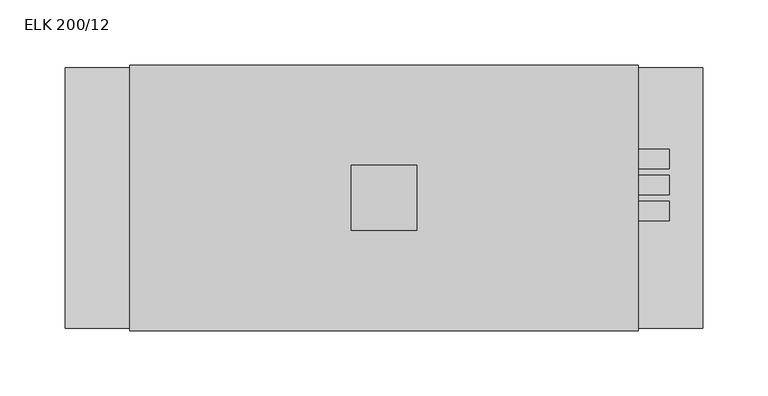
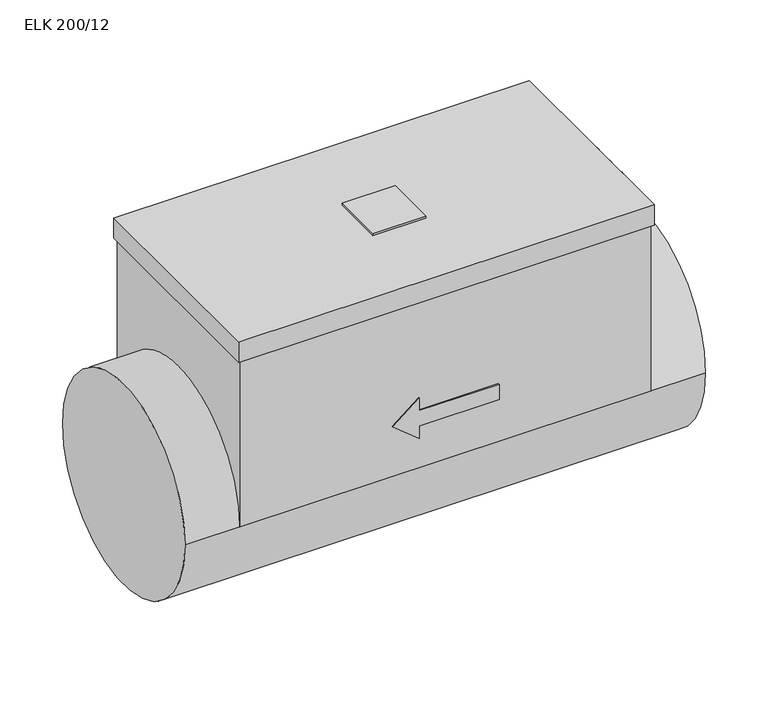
"""IFC4 building model written with IfcOpenShell, lengths in millimetres: proxy geometry, KORF_Нагреватель_Электрический_Круглый_ELK : ELK 200/12."""

from ifc_helpers import new_model, si_unit, point, frame, frame_2d, origin, place, context, project, spatial, polyline, circle_curve, trimmed, segment, composite_curve, outline, extrude, source, transform, mapped, element, save
from ifc_brep_helpers import plane_surface, cylinder_surface, advanced_brep


def elk_200_12_531226ba(model_context):
    return source(origin(), model_context, "Body", "SolidModel", [
        extrude(outline(polyline([(270.0, 25.0), (270.0, -25.0), (220.0, -25.0), (220.0, 25.0), (270.0, 25.0)])), frame((0.0, 0.0, 186.0), z_axis=(0.0, 0.0, 1.0), x_axis=(1.0, 0.0, 0.0)), (0.0, 0.0, 1.0), 2.0),
        extrude(outline(composite_curve([segment(trimmed(circle_curve(frame_2d((-10.0, 146.0)), 7.5), [point((-17.5, 146.0))], [point((-2.5, 146.0))], False, "CARTESIAN"), True, "CONTINUOUS"), segment(trimmed(circle_curve(frame_2d((-10.0, 146.0)), 7.5), [point((-2.5, 146.0))], [point((-17.5, 146.0))], False, "CARTESIAN"), True, "CONTINUOUS")], self_intersect=False)), frame((438.5, 0.0, 0.0), z_axis=(1.0, 0.0, 0.0), x_axis=(0.0, 1.0, 0.0)), (0.0, 0.0, 1.0), 25.75),
        extrude(outline(composite_curve([segment(trimmed(circle_curve(frame_2d((10.0, 146.0)), 7.5), [point((2.5, 146.0))], [point((17.5, 146.0))], False, "CARTESIAN"), True, "CONTINUOUS"), segment(trimmed(circle_curve(frame_2d((10.0, 146.0)), 7.5), [point((17.5, 146.0))], [point((2.5, 146.0))], False, "CARTESIAN"), True, "CONTINUOUS")], self_intersect=False)), frame((438.5, 0.0, 0.0), z_axis=(1.0, 0.0, 0.0), x_axis=(0.0, 1.0, 0.0)), (0.0, 0.0, 1.0), 25.75),
        extrude(outline(composite_curve([segment(trimmed(circle_curve(frame_2d((30.0, 146.0)), 7.5), [point((22.5, 146.0))], [point((37.5, 146.0))], False, "CARTESIAN"), True, "CONTINUOUS"), segment(trimmed(circle_curve(frame_2d((30.0, 146.0)), 7.5), [point((37.5, 146.0))], [point((22.5, 146.0))], False, "CARTESIAN"), True, "CONTINUOUS")], self_intersect=False)), frame((438.5, 0.0, 0.0), z_axis=(1.0, 0.0, 0.0), x_axis=(0.0, 1.0, 0.0)), (0.0, 0.0, 1.0), 25.75),
        advanced_brep(
        [(440.5, 102.0, 166.0), (440.5, -102.0, 166.0), (49.5, -102.0, 166.0), (49.5, 102.0, 166.0), (438.5, 100.0, 166.0), (51.5, 100.0, 166.0), (51.5, -100.0, 166.0), (438.5, -100.0, 166.0), (440.5, 102.0, 186.0), (49.5, 102.0, 186.0), (49.5, -102.0, 186.0), (440.5, -102.0, 186.0), (438.5, 100.0, 0.0), (51.5, 100.0, 0.0), (220.0, 100.0, 70.0), (195.0, 100.0, 50.0), (220.0, 100.0, 30.0), (220.0, 100.0, 42.5), (295.0, 100.0, 42.5), (295.0, 100.0, 57.5), (220.0, 100.0, 57.5), (51.5, -100.0, 0.0), (438.5, -100.0, 0.0), (195.0, -100.0, 50.0), (220.0, -100.0, 70.0), (220.0, -100.0, 57.5), (295.0, -100.0, 57.5), (295.0, -100.0, 42.5), (220.0, -100.0, 42.5), (220.0, -100.0, 30.0), (490.0, -100.0, 0.0), (490.0, 100.0, 0.0), (0.0, -100.0, 0.0), (0.0, 100.0, 0.0), (220.0, -101.0, 70.0), (195.0, -101.0, 50.0), (220.0, -101.0, 30.0), (220.0, -101.0, 42.5), (295.0, -101.0, 42.5), (295.0, -101.0, 57.5), (220.0, -101.0, 57.5), (220.0, 101.0, 70.0), (220.0, 101.0, 57.5), (295.0, 101.0, 57.5), (295.0, 101.0, 42.5), (220.0, 101.0, 42.5), (220.0, 101.0, 30.0), (195.0, 101.0, 50.0)],
        [
            (0, 1),
            (1, 2),
            (2, 3),
            (3, 0),
            (4, 5),
            (5, 6),
            (6, 7),
            (7, 4),
            (8, 9),
            (9, 10),
            (10, 11),
            (11, 8),
            (3, 9),
            (8, 0),
            (2, 10),
            (1, 11),
            (4, 12),
            (12, 13),
            (13, 5),
            (14, 15),
            (15, 16),
            (16, 17),
            (17, 18),
            (18, 19),
            (19, 20),
            (20, 14),
            (13, 21, circle_curve(frame((51.5, 0.0, 0.0), z_axis=(1.0, 0.0, 0.0), x_axis=(0.0, 1.0, 0.0)), 100.0)),
            (21, 6),
            (21, 22),
            (22, 7),
            (23, 24),
            (24, 25),
            (25, 26),
            (26, 27),
            (27, 28),
            (28, 29),
            (29, 23),
            (22, 12, circle_curve(frame((438.5, 0.0, 0.0), z_axis=(-1.0, 0.0, 0.0), x_axis=(0.0, 1.0, 0.0)), 100.0)),
            (30, 31, circle_curve(frame((490.0, 0.0, 0.0), z_axis=(1.0, 0.0, 0.0), x_axis=(0.0, 1.0, 0.0)), 100.0)),
            (31, 30, circle_curve(frame((490.0, 0.0, 0.0), z_axis=(1.0, 0.0, 0.0), x_axis=(0.0, 1.0, 0.0)), 100.0)),
            (32, 33, circle_curve(frame((0.0, 0.0, 0.0), z_axis=(-1.0, 0.0, 0.0), x_axis=(0.0, 1.0, 0.0)), 100.0)),
            (33, 32, circle_curve(frame((0.0, 0.0, 0.0), z_axis=(-1.0, 0.0, 0.0), x_axis=(0.0, 1.0, 0.0)), 100.0)),
            (30, 22),
            (21, 32),
            (33, 13),
            (12, 31),
            (34, 35),
            (35, 36),
            (36, 37),
            (37, 38),
            (38, 39),
            (39, 40),
            (40, 34),
            (41, 42),
            (42, 43),
            (43, 44),
            (44, 45),
            (45, 46),
            (46, 47),
            (47, 41),
            (34, 24),
            (23, 35),
            (47, 15),
            (14, 41),
            (29, 36),
            (46, 16),
            (28, 37),
            (45, 17),
            (27, 38),
            (44, 18),
            (26, 39),
            (43, 19),
            (25, 40),
            (42, 20),
        ],
        [
            plane_surface(frame((49.5, 102.0, 166.0), z_axis=(0.0, 0.0, -1.0), x_axis=(1.0, 0.0, 0.0))),
            plane_surface(frame((49.5, 102.0, 186.0), z_axis=(0.0, 0.0, 1.0), x_axis=(-1.0, 0.0, 0.0))),
            plane_surface(frame((440.5, 102.0, 186.0), z_axis=(0.0, 1.0, 0.0), x_axis=(0.0, 0.0, -1.0))),
            plane_surface(frame((49.5, 102.0, 186.0), z_axis=(-1.0, 0.0, 0.0), x_axis=(0.0, 0.0, -1.0))),
            plane_surface(frame((49.5, -102.0, 186.0), z_axis=(0.0, -1.0, 0.0), x_axis=(0.0, 0.0, -1.0))),
            plane_surface(frame((440.5, -102.0, 186.0), z_axis=(1.0, 0.0, 0.0), x_axis=(0.0, 0.0, -1.0))),
            plane_surface(frame((438.5, 100.0, 186.0), z_axis=(0.0, 1.0, 0.0), x_axis=(0.0, 0.0, -1.0))),
            plane_surface(frame((51.5, 100.0, 186.0), z_axis=(-1.0, 0.0, 0.0), x_axis=(0.0, 0.0, -1.0))),
            plane_surface(frame((51.5, -100.0, 186.0), z_axis=(0.0, -1.0, 0.0), x_axis=(0.0, 0.0, -1.0))),
            plane_surface(frame((438.5, -100.0, 186.0), z_axis=(1.0, 0.0, 0.0), x_axis=(0.0, 0.0, -1.0))),
            plane_surface(frame((490.0, 100.0, 0.0), z_axis=(1.0, 0.0, 0.0), x_axis=(0.0, 0.0, 1.0))),
            plane_surface(frame((0.0, 100.0, 0.0), z_axis=(-1.0, 0.0, 0.0), x_axis=(0.0, 0.0, -1.0))),
            cylinder_surface(frame((0.0, 0.0, 0.0), z_axis=(1.0, 0.0, 0.0), x_axis=(0.0, 1.0, 0.0)), 100.0),
            plane_surface(frame((195.0, -101.0, 50.0), z_axis=(0.0, -1.0, 0.0), x_axis=(-0.7808688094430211, 0.0, -0.6246950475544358))),
            plane_surface(frame((195.0, 101.0, 50.0), z_axis=(0.0, 1.0, 0.0), x_axis=(0.7808688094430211, 0.0, 0.6246950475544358))),
            plane_surface(frame((220.0, -101.0, 70.0), z_axis=(-0.6246950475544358, 0.0, 0.7808688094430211), x_axis=(0.0, 1.0, 0.0))),
            plane_surface(frame((195.0, -101.0, 50.0), z_axis=(-0.6246950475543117, 0.0, -0.7808688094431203), x_axis=(0.0, 1.0, 0.0))),
            plane_surface(frame((220.0, -101.0, 30.0), z_axis=(1.0, 0.0, 0.0), x_axis=(0.0, 1.0, 0.0))),
            plane_surface(frame((220.0, -101.0, 42.5), z_axis=(0.0, 0.0, -1.0), x_axis=(0.0, 1.0, 0.0))),
            plane_surface(frame((295.0, -101.0, 42.5), z_axis=(1.0, 0.0, 0.0), x_axis=(0.0, 1.0, 0.0))),
            plane_surface(frame((295.0, -101.0, 57.5), z_axis=(0.0, 0.0, 1.0), x_axis=(0.0, 1.0, 0.0))),
            plane_surface(frame((220.0, -101.0, 57.5), z_axis=(1.0, 0.0, 0.0), x_axis=(0.0, 1.0, 0.0))),
        ],
        [
            (0, [[1, 2, 3, 4], [5, 6, 7, 8]]),
            (1, [[9, 10, 11, 12]]),
            (2, [[-4, 13, -9, 14]]),
            (3, [[-3, 15, -10, -13]]),
            (4, [[-2, 16, -11, -15]]),
            (5, [[-1, -14, -12, -16]]),
            (6, [[17, 18, 19, -5], [20, 21, 22, 23, 24, 25, 26]]),
            (7, [[-19, 27, 28, -6]]),
            (8, [[-28, 29, 30, -7], [31, 32, 33, 34, 35, 36, 37]]),
            (9, [[-17, -8, -30, 38]]),
            (10, [[39, 40]]),
            (11, [[41, 42]]),
            (12, [[-39, 43, -29, 44, -42, 45, -18, 46]]),
            (12, [[-40, -46, -38, -43]]),
            (12, [[-41, -44, -27, -45]]),
            (13, [[47, 48, 49, 50, 51, 52, 53]]),
            (14, [[54, 55, 56, 57, 58, 59, 60]]),
            (15, [[-47, 61, -31, 62]]),
            (15, [[-60, 63, -20, 64]]),
            (16, [[-48, -62, -37, 65]]),
            (16, [[-59, 66, -21, -63]]),
            (17, [[-49, -65, -36, 67]]),
            (17, [[-58, 68, -22, -66]]),
            (18, [[-50, -67, -35, 69]]),
            (18, [[-57, 70, -23, -68]]),
            (19, [[-51, -69, -34, 71]]),
            (19, [[-56, 72, -24, -70]]),
            (20, [[-52, -71, -33, 73]]),
            (20, [[-55, 74, -25, -72]]),
            (21, [[-53, -73, -32, -61]]),
            (21, [[-54, -64, -26, -74]]),
        ],
    ),
    ])


if __name__ == "__main__":
    model = new_model("IFC4")
    model_context = context("Model", 3, world=origin())
    ifc_project = project(units=[si_unit("LENGTHUNIT", "METRE", prefix="MILLI")], contexts=[model_context])
    site = spatial("IfcSite", under=ifc_project)
    building = spatial("IfcBuilding", under=site)
    placement = place(None, origin())
    elk_200_12_shape = elk_200_12_531226ba(model_context)
    element("IfcBuildingElementProxy", 1, Name="KORF_Нагреватель_Электрический_Круглый_ELK : ELK 200/12", ObjectType="KORF_Нагреватель_Электрический_Круглый_ELK : ELK 200/12", at=placement, inside=building, context=model_context, shape_type="MappedRepresentation", body=[
        mapped(elk_200_12_shape, transform((0.0, 0.0, 0.0), x_axis=(1.0, 0.0, 0.0), y_axis=(0.0, 1.0, 0.0), z_axis=(0.0, 0.0, 1.0))),
    ])
    save(model, "model.ifc")
